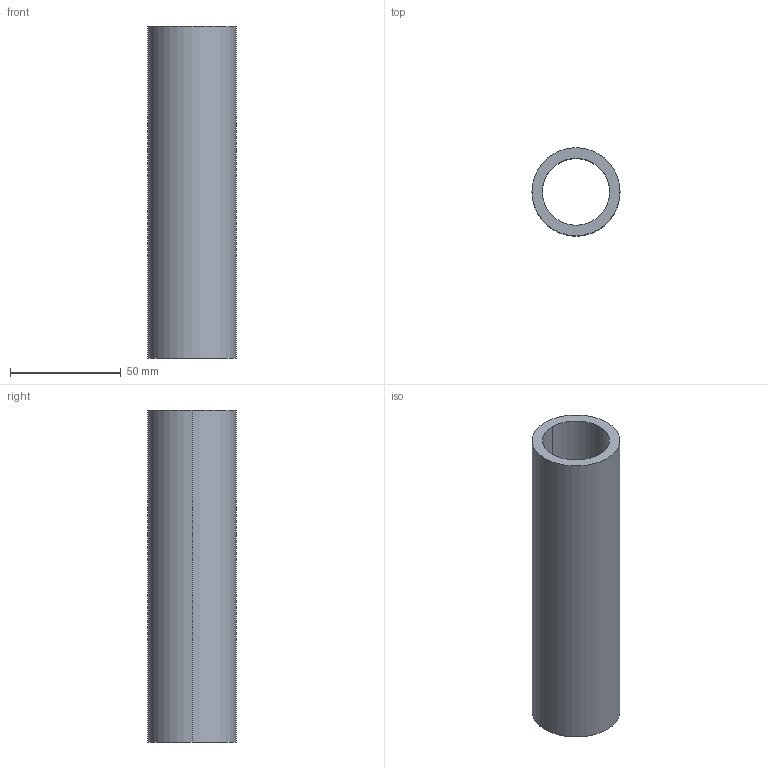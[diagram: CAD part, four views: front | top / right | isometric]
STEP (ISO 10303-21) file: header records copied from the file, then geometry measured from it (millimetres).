
FILE_DESCRIPTION (( 'STEP AP203' ), '1' );
FILE_NAME ('19-0408-46_outokumpu.step', '2015-08-11T09:41:53', ( '' ), ( '' ), 'SwSTEP 2.0', 'SolidWorks 2008', '' );
FILE_SCHEMA (( 'CONFIG_CONTROL_DESIGN' ));
Length unit declared in the file: millimetre
Products named in the file (1): 19-0408-46_outokumpu
Bounding box: 39.8 x 39.8 x 150 mm (x, y, z)
Volume: 75636 mm3; surface area: 34146.4 mm2
Topology: 1 solids, 1 shells, 12 faces, 26 edges, 16 vertices
Faces by surface type: cylinder 6, cone 4, plane 2
Entity records: 415 total; most frequent: DIRECTION 68, CARTESIAN_POINT 55, ORIENTED_EDGE 52, AXIS2_PLACEMENT_3D 29, EDGE_CURVE 26, VERTEX_POINT 16, CIRCLE 16, EDGE_LOOP 14
